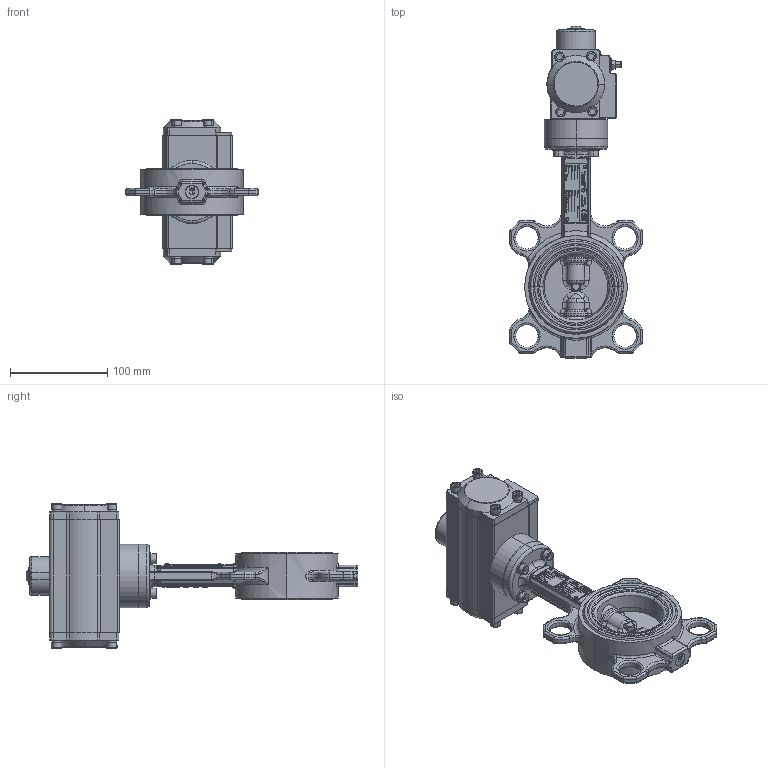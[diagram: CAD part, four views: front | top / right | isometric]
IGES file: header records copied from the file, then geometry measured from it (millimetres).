
Start section: SolidWorks IGES file using NURBS representation for surfaces
Global section: file name: H:\BE BIBLIOTHEQUE 3D\VPN-03 PNEUMATIC ACTUATOR (DN40 à 300)\VPN-03 DN65\VPN-03 DN65.IGS; native system: SolidWorks 2011; preprocessor: SolidWorks 2011; author: a.cartier; date: 140620.094135; units: millimetre
Bounding box: 136 x 341.22 x 148.56 mm (x, y, z)
Volume: 846243.6 mm3; surface area: 284749.4 mm2
Topology: 69 solids, 69 shells, 4866 faces, 12028 edges, 7706 vertices
Faces by surface type: bspline 4866
